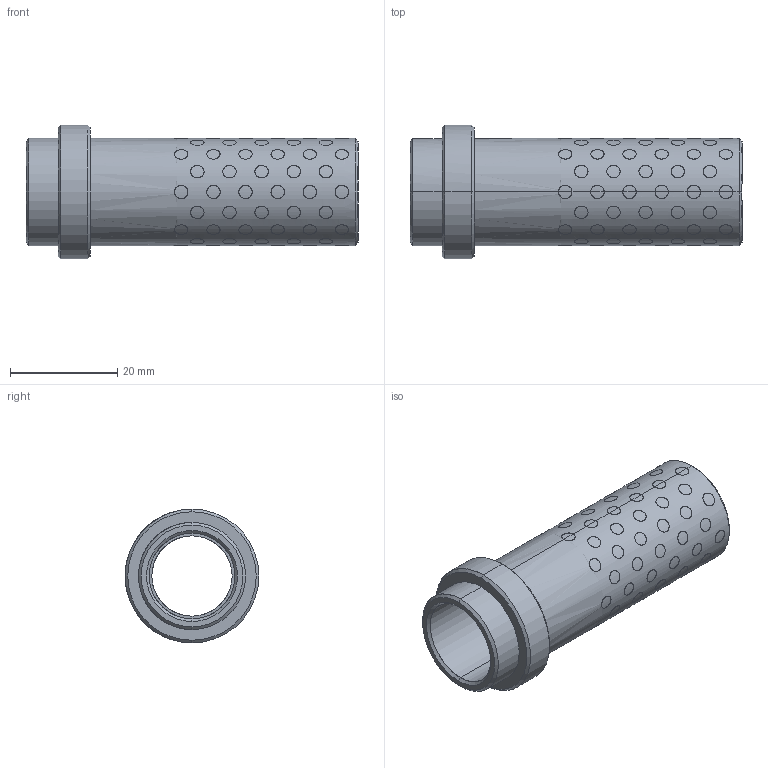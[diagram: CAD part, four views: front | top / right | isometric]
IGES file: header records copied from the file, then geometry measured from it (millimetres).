
Start section: START RECORD GO HERE.
Global section: file name: G31215056.igs; native system: DASSAULT SYSTEMES CATIA V5 R20 - www.3ds.com; preprocessor: CATIA Version 5 Release 20 ; author: r.borello; organization: CFTORINO; date: 20190624.121843; units: millimetre
Bounding box: 62 x 25 x 25 mm (x, y, z)
Surface area: 10962.6 mm2 (no closed solid volume)
Topology: 0 solids, 0 shells, 579 faces, 2508 edges, 2508 vertices
Faces by surface type: revolution 574, plane 5
